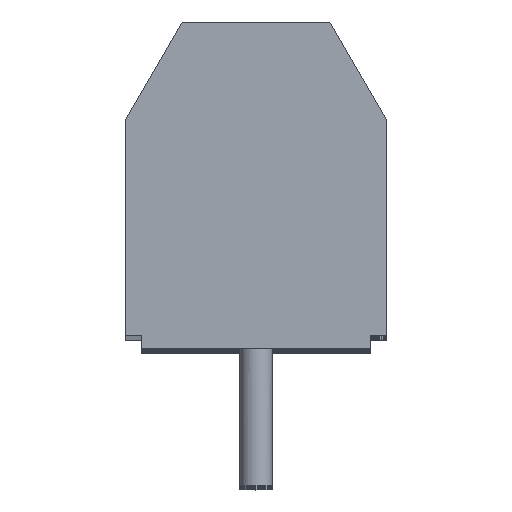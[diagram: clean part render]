
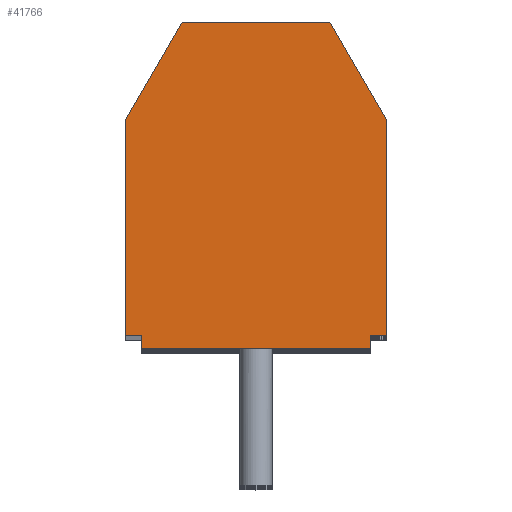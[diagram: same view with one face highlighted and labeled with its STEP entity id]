
A CAD part, top view. The second image highlights one B-rep face of the part: STEP entity #41766.
In plain terms, the highlighted planar face has unit normal (0, 0, 1).
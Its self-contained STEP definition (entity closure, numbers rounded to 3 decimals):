
#8157 = CARTESIAN_POINT ( 'NONE',  ( -3.562, -2.845, 0. ) ) ;
#8158 = DIRECTION ( 'NONE',  ( -1., 0., 0. ) ) ;
#8159 = VECTOR ( 'NONE', #8158, 1000. ) ;
#8160 = CARTESIAN_POINT ( 'NONE',  ( -3.562, -2.845, 0. ) ) ;
#8161 = LINE ( 'NONE', #8160, #8159 ) ;
#13033 = CARTESIAN_POINT ( 'NONE',  ( 3.938, -3.245, 0. ) ) ;
#13077 = DIRECTION ( 'NONE',  ( 1., 0., 0. ) ) ;
#13078 = VECTOR ( 'NONE', #13077, 1000. ) ;
#13079 = CARTESIAN_POINT ( 'NONE',  ( 0.438, -2.845, 0. ) ) ;
#13080 = LINE ( 'NONE', #13079, #13078 ) ;
#13081 = CARTESIAN_POINT ( 'NONE',  ( 4.438, -2.845, 0. ) ) ;
#13114 = DIRECTION ( 'NONE',  ( 0., 1., 0. ) ) ;
#13115 = VECTOR ( 'NONE', #13114, 1000. ) ;
#13116 = CARTESIAN_POINT ( 'NONE',  ( 3.938, 1.755, 0. ) ) ;
#13117 = LINE ( 'NONE', #13116, #13115 ) ;
#13118 = CARTESIAN_POINT ( 'NONE',  ( 3.938, -2.845, 0. ) ) ;
#13129 = DIRECTION ( 'NONE',  ( 1., 0., 0. ) ) ;
#13130 = VECTOR ( 'NONE', #13129, 1000. ) ;
#13131 = CARTESIAN_POINT ( 'NONE',  ( 0.438, -3.245, 0. ) ) ;
#13132 = LINE ( 'NONE', #13131, #13130 ) ;
#13139 = DIRECTION ( 'NONE',  ( 0., 1., 0. ) ) ;
#13140 = VECTOR ( 'NONE', #13139, 1000. ) ;
#13141 = CARTESIAN_POINT ( 'NONE',  ( 4.438, -3.245, 0. ) ) ;
#13142 = LINE ( 'NONE', #13141, #13140 ) ;
#13143 = CARTESIAN_POINT ( 'NONE',  ( 4.438, 3.755, 0. ) ) ;
#13166 = LINE ( 'NONE', #13229, #13228 ) ;
#13192 = CARTESIAN_POINT ( 'NONE',  ( -3.562, 3.755, 0. ) ) ;
#13227 = DIRECTION ( 'NONE',  ( 0., -1., 0. ) ) ;
#13228 = VECTOR ( 'NONE', #13227, 1000. ) ;
#13229 = CARTESIAN_POINT ( 'NONE',  ( -3.562, 1.755, 0. ) ) ;
#21798 = CARTESIAN_POINT ( 'NONE',  ( -1.83, 6.755, 0. ) ) ;
#21873 = DIRECTION ( 'NONE',  ( 1., 0., 0. ) ) ;
#21874 = DIRECTION ( 'NONE',  ( 0., 0., 1. ) ) ;
#21875 = CARTESIAN_POINT ( 'NONE',  ( -3.562, -3.245, 0. ) ) ;
#21876 = AXIS2_PLACEMENT_3D ( 'NONE', #21875, #21874, #21873 ) ;
#21877 = PLANE ( 'NONE',  #21876 ) ;
#21878 = FACE_OUTER_BOUND ( 'NONE', #41767, .T. ) ;
#21879 = DIRECTION ( 'NONE',  ( -0.5, -0.866, 0. ) ) ;
#21880 = VECTOR ( 'NONE', #21879, 1000. ) ;
#21881 = CARTESIAN_POINT ( 'NONE',  ( -1.83, 6.755, 0. ) ) ;
#21882 = LINE ( 'NONE', #21881, #21880 ) ;
#21894 = DIRECTION ( 'NONE',  ( 1., 0., 0. ) ) ;
#21895 = VECTOR ( 'NONE', #21894, 1000. ) ;
#21896 = CARTESIAN_POINT ( 'NONE',  ( 2.706, 6.755, 0. ) ) ;
#21897 = LINE ( 'NONE', #21896, #21895 ) ;
#21898 = CARTESIAN_POINT ( 'NONE',  ( 2.706, 6.755, 0. ) ) ;
#21899 = DIRECTION ( 'NONE',  ( 0.5, -0.866, 0. ) ) ;
#21900 = VECTOR ( 'NONE', #21899, 1000. ) ;
#21901 = CARTESIAN_POINT ( 'NONE',  ( 3.572, 5.255, 0. ) ) ;
#21902 = LINE ( 'NONE', #21901, #21900 ) ;
#29712 = LINE ( 'NONE', #29775, #29774 ) ;
#29713 = CARTESIAN_POINT ( 'NONE',  ( -3.062, -3.245, 0. ) ) ;
#29723 = CARTESIAN_POINT ( 'NONE',  ( -3.062, -2.845, 0. ) ) ;
#29773 = DIRECTION ( 'NONE',  ( 0., -1., 0. ) ) ;
#29774 = VECTOR ( 'NONE', #29773, 1000. ) ;
#29775 = CARTESIAN_POINT ( 'NONE',  ( -3.062, -3.045, 0. ) ) ;
#34025 = EDGE_CURVE ( 'NONE', #46149, #34026, #8161, .T. ) ;
#34026 = VERTEX_POINT ( 'NONE', #8157 ) ;
#36598 = VERTEX_POINT ( 'NONE', #13033 ) ;
#36644 = VERTEX_POINT ( 'NONE', #13081 ) ;
#36646 = EDGE_CURVE ( 'NONE', #36660, #36644, #13080, .T. ) ;
#36655 = EDGE_CURVE ( 'NONE', #46155, #36598, #13132, .T. ) ;
#36660 = VERTEX_POINT ( 'NONE', #13118 ) ;
#36662 = EDGE_CURVE ( 'NONE', #36598, #36660, #13117, .T. ) ;
#36709 = VERTEX_POINT ( 'NONE', #13143 ) ;
#36711 = EDGE_CURVE ( 'NONE', #36644, #36709, #13142, .T. ) ;
#36778 = VERTEX_POINT ( 'NONE', #13192 ) ;
#36850 = EDGE_CURVE ( 'NONE', #36778, #34026, #13166, .T. ) ;
#41703 = VERTEX_POINT ( 'NONE', #21798 ) ;
#41749 = ORIENTED_EDGE ( 'NONE', *, *, #36646, .T. ) ;
#41750 = ORIENTED_EDGE ( 'NONE', *, *, #36711, .T. ) ;
#41751 = ORIENTED_EDGE ( 'NONE', *, *, #41752, .F. ) ;
#41752 = EDGE_CURVE ( 'NONE', #41753, #36709, #21902, .T. ) ;
#41753 = VERTEX_POINT ( 'NONE', #21898 ) ;
#41754 = ORIENTED_EDGE ( 'NONE', *, *, #41755, .F. ) ;
#41755 = EDGE_CURVE ( 'NONE', #41703, #41753, #21897, .T. ) ;
#41764 = EDGE_CURVE ( 'NONE', #41703, #36778, #21882, .T. ) ;
#41766 = ADVANCED_FACE ( 'NONE', ( #21878 ), #21877, .T. ) ;
#41767 = EDGE_LOOP ( 'NONE', ( #41768, #41769, #41770, #41771, #41772, #41773, #41749, #41750, #41751, #41754 ) ) ;
#41768 = ORIENTED_EDGE ( 'NONE', *, *, #41764, .T. ) ;
#41769 = ORIENTED_EDGE ( 'NONE', *, *, #36850, .T. ) ;
#41770 = ORIENTED_EDGE ( 'NONE', *, *, #34025, .F. ) ;
#41771 = ORIENTED_EDGE ( 'NONE', *, *, #46157, .T. ) ;
#41772 = ORIENTED_EDGE ( 'NONE', *, *, #36655, .T. ) ;
#41773 = ORIENTED_EDGE ( 'NONE', *, *, #36662, .T. ) ;
#46149 = VERTEX_POINT ( 'NONE', #29723 ) ;
#46155 = VERTEX_POINT ( 'NONE', #29713 ) ;
#46157 = EDGE_CURVE ( 'NONE', #46149, #46155, #29712, .T. ) ;
